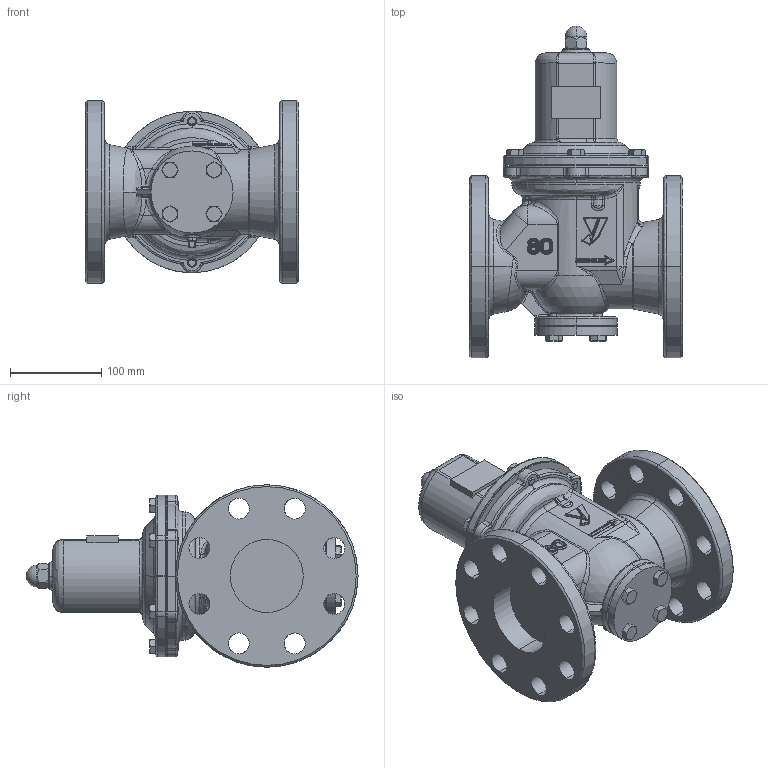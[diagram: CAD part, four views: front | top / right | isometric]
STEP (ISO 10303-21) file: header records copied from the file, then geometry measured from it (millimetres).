
FILE_DESCRIPTION( (''), '2;1');
FILE_NAME ('PC2091.19220.GD-29-NE 80A_24686.stp','2026-04-16T18:03:54',(''),(''),'spGate 21.9.4 (****-****-****-****)','','');
FILE_SCHEMA (('AUTOMOTIVE_DESIGN'));
Length unit declared in the file: millimetre
Products named in the file (6): Assembly; 保護筒 65-80A; 四角プラグ R1／8; CP_''_JIS B 1183 六角袋ナット 3形 M''_705; CP_''_JIS B 1180 呼び径六角ボルト''_17166; GD-29_80A_弁箱概略モデル
Assembly tree (14 placements, depth 2):
  Assembly
    保護筒 65-80A
    四角プラグ R1／8
    CP_''_JIS B 1183 六角袋ナット 3形 M''_705
    CP_''_JIS B 1180 呼び径六角ボルト''_17166  x10
    GD-29_80A_弁箱概略モデル
Bounding box: 234 x 364 x 200 mm (x, y, z)
Volume: 3914600.8 mm3; surface area: 459808.4 mm2
Topology: 14 solids, 14 shells, 906 faces, 2122 edges, 1219 vertices
Faces by surface type: bspline 408, cylinder 254, plane 200, sphere 44
Entity records: 48550 total; most frequent: CARTESIAN_POINT 21713, ORIENTED_EDGE 3230, DIRECTION 2393, COLOUR_RGB 2310, PRESENTATION_STYLE_ASSIGNMENT 2310, STYLED_ITEM 2310, EDGE_CURVE 1615, DRAUGHTING_PRE_DEFINED_CURVE_FONT 1615
